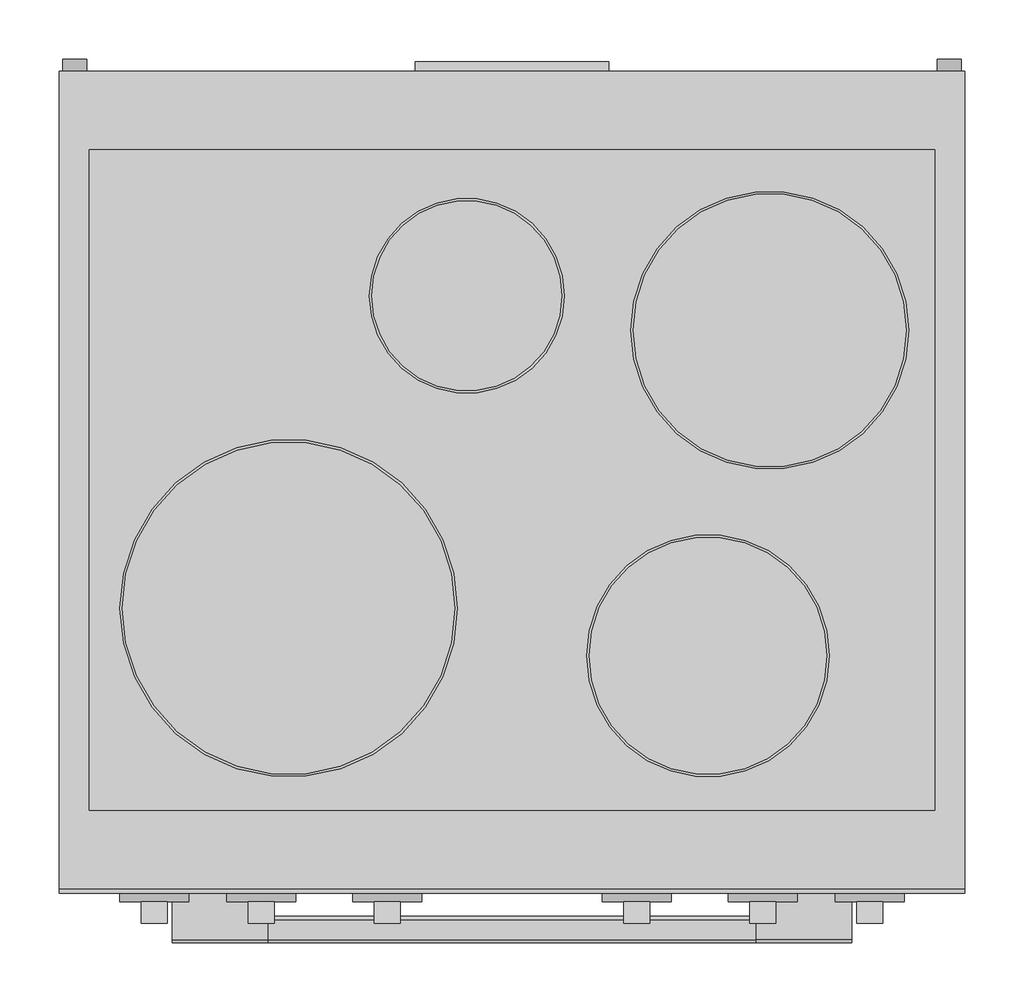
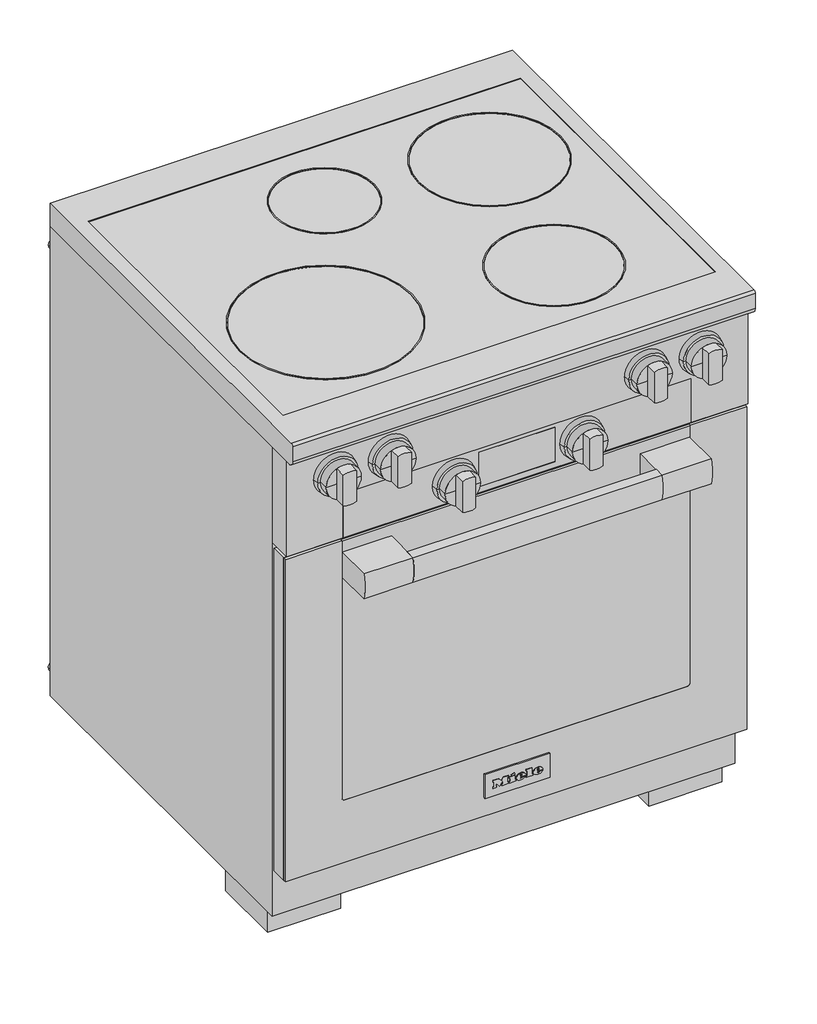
# Not in any storey: 1 proxy.
"""IFC4 building model written with IfcOpenShell, lengths in millimetres."""

from ifc_helpers import new_model, si_unit, origin, place, context, project, spatial, transform, mapped, element, save
from components import specialty_equipment_8ac4c8d8, specialty_equipment_dd086f72

model = new_model("IFC4")

# Units and contexts
model_context = context("Model", 3, world=origin())
ifc_project = project(units=[si_unit("LENGTHUNIT", "METRE", prefix="MILLI")], contexts=[model_context])

# Site, building
site = spatial("IfcSite", under=ifc_project)
building = spatial("IfcBuilding", under=site)

# Proxy
placement = place(None, origin())
specialty_equipment_shape = specialty_equipment_8ac4c8d8(model_context)
specialty_equipment_2_shape = specialty_equipment_dd086f72(model_context)
element("IfcBuildingElementProxy", 1, Name="12298850_USA_HR1422-3_EDST-CLST : 25142281_USA_12298850_HR1422-3_EDST-CLST", ObjectType="12298850_USA_HR1422-3_EDST-CLST : 25142281_USA_12298850_HR1422-3_EDST-CLST", at=placement, inside=building, context=model_context, shape_type="MappedRepresentation", body=[
    mapped(specialty_equipment_shape, transform((0.0, 0.0, 0.0), x_axis=(1.0, 0.0, 0.0), y_axis=(0.0, 1.0, 0.0), z_axis=(0.0, 0.0, 1.0))),
    mapped(specialty_equipment_2_shape, transform((0.0, 0.0, 0.0), x_axis=(1.0, 0.0, 0.0), y_axis=(0.0, 1.0, 0.0), z_axis=(0.0, 0.0, 1.0))),
])

save(model, "model.ifc")
